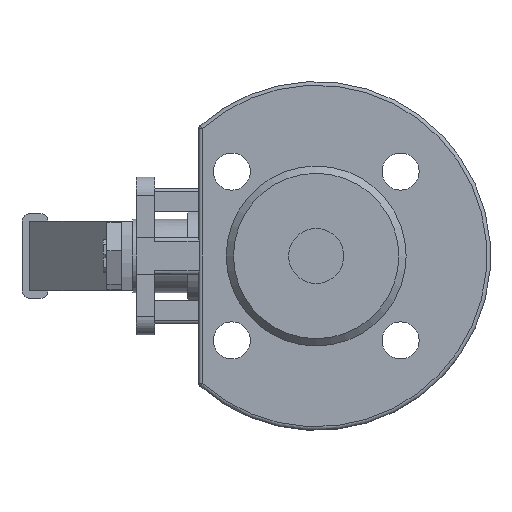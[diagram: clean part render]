
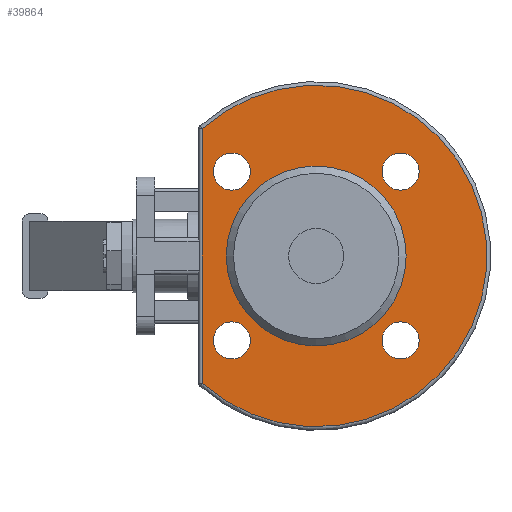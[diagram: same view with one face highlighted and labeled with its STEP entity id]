
A CAD part, left-side view. The second image highlights one B-rep face of the part: STEP entity #39864.
In plain terms, the highlighted planar face has unit normal (-1, 0, 0).
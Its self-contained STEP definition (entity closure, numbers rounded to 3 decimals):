
#39636=CARTESIAN_POINT('',(-19.,31.,-34.659));
#39637=VERTEX_POINT('',#39636);
#39645=CARTESIAN_POINT('',(-19.,31.,34.659));
#39646=VERTEX_POINT('',#39645);
#39647=CARTESIAN_POINT('',(-19.,31.,-34.659));
#39648=DIRECTION('',(0.0,0.0,1.0));
#39649=VECTOR('',#39648,69.318);
#39650=LINE('',#39647,#39649);
#39651=EDGE_CURVE('',#39637,#39646,#39650,.T.);
#39794=CARTESIAN_POINT('',(-19.,36.0,0.0));
#39795=DIRECTION('',(-1.0,0.0,0.0));
#39796=DIRECTION('',(0.0,0.0,1.0));
#39797=AXIS2_PLACEMENT_3D('',#39794,#39795,#39796);
#39798=PLANE('',#39797);
#39799=ORIENTED_EDGE('',*,*,#39651,.F.);
#39800=CARTESIAN_POINT('',(-19.,0.0,0.0));
#39801=DIRECTION('',(1.0,0.0,0.0));
#39802=DIRECTION('',(0.0,-1.0,0.0));
#39803=AXIS2_PLACEMENT_3D('',#39800,#39801,#39802);
#39804=CIRCLE('',#39803,46.5);
#39805=EDGE_CURVE('',#39646,#39637,#39804,.T.);
#39806=ORIENTED_EDGE('',*,*,#39805,.F.);
#39807=EDGE_LOOP('',(#39799,#39806));
#39808=FACE_OUTER_BOUND('',#39807,.T.);
#39809=CARTESIAN_POINT('',(-19.,24.5,0.0));
#39810=VERTEX_POINT('',#39809);
#39811=CARTESIAN_POINT('',(-19.,0.0,0.0));
#39812=DIRECTION('',(1.0,0.0,0.0));
#39813=DIRECTION('',(0.0,1.0,0.0));
#39814=AXIS2_PLACEMENT_3D('',#39811,#39812,#39813);
#39815=CIRCLE('',#39814,24.5);
#39816=EDGE_CURVE('',#39810,#39810,#39815,.T.);
#39817=ORIENTED_EDGE('',*,*,#39816,.T.);
#39818=EDGE_LOOP('',(#39817));
#39819=FACE_BOUND('',#39818,.T.);
#39820=CARTESIAN_POINT('',(-19.,22.981,28.034));
#39821=VERTEX_POINT('',#39820);
#39822=CARTESIAN_POINT('',(-19.,22.981,22.981));
#39823=DIRECTION('',(1.0,0.0,0.0));
#39824=DIRECTION('',(0.0,0.0,1.0));
#39825=AXIS2_PLACEMENT_3D('',#39822,#39823,#39824);
#39826=CIRCLE('',#39825,5.053);
#39827=EDGE_CURVE('',#39821,#39821,#39826,.T.);
#39828=ORIENTED_EDGE('',*,*,#39827,.T.);
#39829=EDGE_LOOP('',(#39828));
#39830=FACE_BOUND('',#39829,.T.);
#39831=CARTESIAN_POINT('',(-19.,22.981,-17.928));
#39832=VERTEX_POINT('',#39831);
#39833=CARTESIAN_POINT('',(-19.,22.981,-22.981));
#39834=DIRECTION('',(1.0,0.0,0.0));
#39835=DIRECTION('',(0.0,0.0,1.0));
#39836=AXIS2_PLACEMENT_3D('',#39833,#39834,#39835);
#39837=CIRCLE('',#39836,5.053);
#39838=EDGE_CURVE('',#39832,#39832,#39837,.T.);
#39839=ORIENTED_EDGE('',*,*,#39838,.T.);
#39840=EDGE_LOOP('',(#39839));
#39841=FACE_BOUND('',#39840,.T.);
#39842=CARTESIAN_POINT('',(-19.,-22.981,-17.928));
#39843=VERTEX_POINT('',#39842);
#39844=CARTESIAN_POINT('',(-19.,-22.981,-22.981));
#39845=DIRECTION('',(1.0,0.0,0.0));
#39846=DIRECTION('',(0.0,0.0,1.0));
#39847=AXIS2_PLACEMENT_3D('',#39844,#39845,#39846);
#39848=CIRCLE('',#39847,5.053);
#39849=EDGE_CURVE('',#39843,#39843,#39848,.T.);
#39850=ORIENTED_EDGE('',*,*,#39849,.T.);
#39851=EDGE_LOOP('',(#39850));
#39852=FACE_BOUND('',#39851,.T.);
#39853=CARTESIAN_POINT('',(-19.,-22.981,28.034));
#39854=VERTEX_POINT('',#39853);
#39855=CARTESIAN_POINT('',(-19.,-22.981,22.981));
#39856=DIRECTION('',(1.0,0.0,0.0));
#39857=DIRECTION('',(0.0,0.0,1.0));
#39858=AXIS2_PLACEMENT_3D('',#39855,#39856,#39857);
#39859=CIRCLE('',#39858,5.053);
#39860=EDGE_CURVE('',#39854,#39854,#39859,.T.);
#39861=ORIENTED_EDGE('',*,*,#39860,.T.);
#39862=EDGE_LOOP('',(#39861));
#39863=FACE_BOUND('',#39862,.T.);
#39864=ADVANCED_FACE('',(#39808,#39819,#39830,#39841,#39852,#39863),#39798,.T.);
